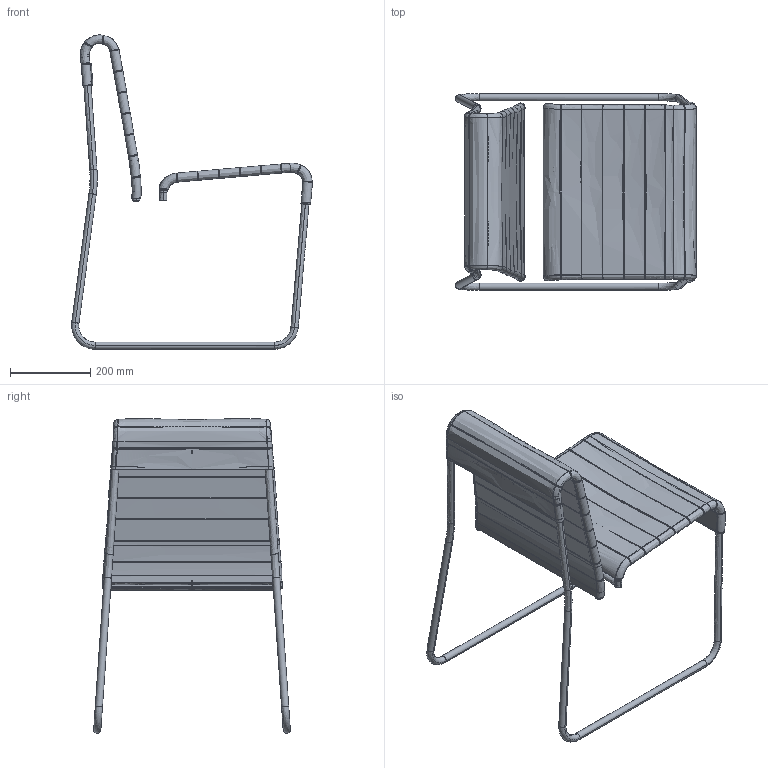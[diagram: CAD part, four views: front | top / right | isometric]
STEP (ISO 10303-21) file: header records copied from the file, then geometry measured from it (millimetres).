
FILE_DESCRIPTION(/* description */ (''),/* implementation_level */ '2;1');
FILE_NAME(/* name */ 'FARALLON SIDE CHAIR',/* time_stamp */ '2017-05-23T15:59:50+02:00',/* author */ (''),/* organization */ (''),/* preprocessor_version */ 'ST-DEVELOPER v10',/* originating_system */ '',/* authorisation */ '');
FILE_SCHEMA (('CONFIG_CONTROL_DESIGN'));
Length unit declared in the file: millimetre
Products named in the file (1): 1
Bounding box: 599.52 x 489.31 x 782.65 mm (x, y, z)
Surface area: 2032065.9 mm2 (no closed solid volume)
Topology: 0 solids, 389 shells, 389 faces, 1257 edges, 1257 vertices
Faces by surface type: bspline 375, plane 14
Entity records: 186782 total; most frequent: CARTESIAN_POINT 179876, ORIENTED_EDGE 1257, EDGE_CURVE 1257, VERTEX_POINT 1257, B_SPLINE_CURVE_WITH_KNOTS 814, EDGE_LOOP 393, SHELL_BASED_SURFACE_MODEL 389, OPEN_SHELL 389
